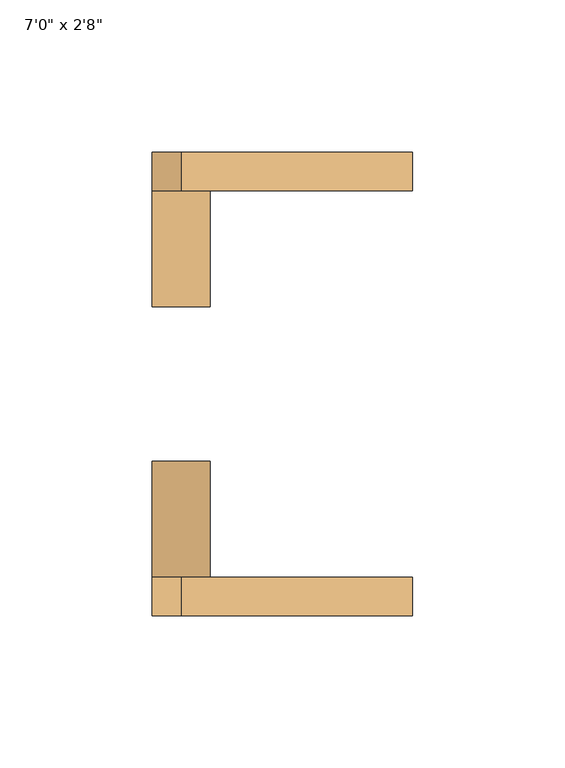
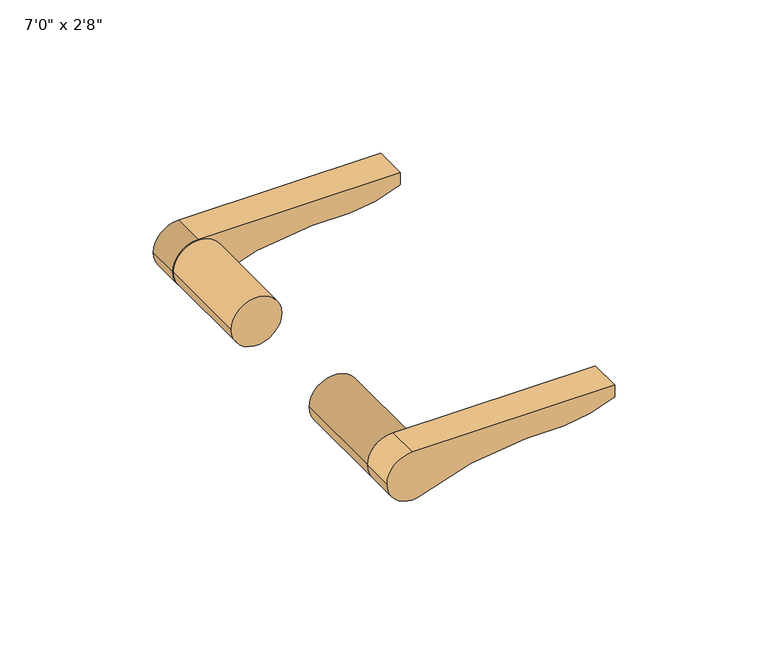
"""IFC4 building model written with IfcOpenShell, lengths in millimetres: door geometry."""

from ifc_helpers import new_model, si_unit, point, frame, frame_2d, origin, place, context, project, spatial, polyline, circle_curve, trimmed, segment, composite_curve, outline, extrude, source, transform, mapped, element, save


def door_9450de81(model_context):
    return source(origin(), model_context, "Body", "SweptSolid", [
        extrude(outline(composite_curve([segment(trimmed(circle_curve(frame_2d((1016.0, -342.9)), 9.525), [point((1016.0, -352.425))], [point((1006.7131627, -340.7833333))], False, "CARTESIAN"), True, "CONTINUOUS"), segment(trimmed(circle_curve(frame_2d((910.8226001, -297.4965958)), 105.2080873), [point((1006.7131627, -340.7833333))], [point((1016.0, -300.0375))], True, "CARTESIAN"), True, "CONTINUOUS"), segment(polyline([(1016.0, -300.0375), (1016.0, -285.8013442)]), True, "CONTINUOUS"), segment(trimmed(circle_curve(frame_2d((1066.7220571, -288.303389)), 50.7837307), [point((1016.0, -285.8013442))], [point((1020.7625, -266.7))], False, "CARTESIAN"), True, "CONTINUOUS"), segment(polyline([(1020.7625, -266.7), (1025.525, -266.7), (1025.525, -342.9)]), True, "CONTINUOUS"), segment(trimmed(circle_curve(frame_2d((1016.0, -342.9)), 9.525), [point((1025.525, -342.9))], [point((1016.0, -352.425))], False, "CARTESIAN"), True, "CONTINUOUS")], self_intersect=False)), frame((0.0, 38.1, 0.0), z_axis=(0.0, 1.0, 0.0), x_axis=(0.0, 0.0, 1.0)), (0.0, 0.0, 1.0), 12.7),
        extrude(outline(composite_curve([segment(trimmed(circle_curve(frame_2d((1016.0, -342.9)), 9.525), [point((1016.0, -352.425))], [point((1006.7131627, -340.7833333))], False, "CARTESIAN"), True, "CONTINUOUS"), segment(trimmed(circle_curve(frame_2d((910.8226001, -297.4965958)), 105.2080873), [point((1006.7131627, -340.7833333))], [point((1016.0, -300.0375))], True, "CARTESIAN"), True, "CONTINUOUS"), segment(polyline([(1016.0, -300.0375), (1016.0, -285.8013442)]), True, "CONTINUOUS"), segment(trimmed(circle_curve(frame_2d((1066.7220571, -288.303389)), 50.7837307), [point((1016.0, -285.8013442))], [point((1020.7625, -266.7))], False, "CARTESIAN"), True, "CONTINUOUS"), segment(polyline([(1020.7625, -266.7), (1025.525, -266.7), (1025.525, -342.9)]), True, "CONTINUOUS"), segment(trimmed(circle_curve(frame_2d((1016.0, -342.9)), 9.525), [point((1025.525, -342.9))], [point((1016.0, -352.425))], False, "CARTESIAN"), True, "CONTINUOUS")], self_intersect=False)), frame((0.0, -101.6, 0.0), z_axis=(0.0, 1.0, 0.0), x_axis=(0.0, 0.0, 1.0)), (0.0, 0.0, 1.0), 12.7),
        extrude(outline(composite_curve([segment(trimmed(circle_curve(frame_2d((1016.0, -342.9)), 9.525), [point((1016.0, -333.375))], [point((1016.0, -352.425))], False, "CARTESIAN"), True, "CONTINUOUS"), segment(trimmed(circle_curve(frame_2d((1016.0, -342.9)), 9.525), [point((1016.0, -352.425))], [point((1016.0, -333.375))], False, "CARTESIAN"), True, "CONTINUOUS")], self_intersect=False)), frame((0.0, -88.9, 0.0), z_axis=(0.0, 1.0, 0.0), x_axis=(0.0, 0.0, 1.0)), (0.0, 0.0, 1.0), 38.1),
        extrude(outline(composite_curve([segment(trimmed(circle_curve(frame_2d((1016.0, -342.9)), 9.525), [point((1016.0, -333.375))], [point((1016.0, -352.425))], False, "CARTESIAN"), True, "CONTINUOUS"), segment(trimmed(circle_curve(frame_2d((1016.0, -342.9)), 9.525), [point((1016.0, -352.425))], [point((1016.0, -333.375))], False, "CARTESIAN"), True, "CONTINUOUS")], self_intersect=False)), frame((0.0, 0.0, 0.0), z_axis=(0.0, 1.0, 0.0), x_axis=(0.0, 0.0, 1.0)), (0.0, 0.0, 1.0), 38.1),
    ])


if __name__ == "__main__":
    model = new_model("IFC4")
    model_context = context("Model", 3, world=origin())
    ifc_project = project(units=[si_unit("LENGTHUNIT", "METRE", prefix="MILLI")], contexts=[model_context])
    site = spatial("IfcSite", under=ifc_project)
    building = spatial("IfcBuilding", under=site)
    placement = place(None, origin())
    door_shape = door_9450de81(model_context)
    element("IfcDoor", 1, ObjectType="Planitar - Single Door_Swapper : 7'0\" x 2'8\"", at=placement, inside=building, context=model_context, shape_type="MappedRepresentation", body=[
        mapped(door_shape, transform((0.0, 0.0, 0.0), x_axis=(1.0, 0.0, 0.0), y_axis=(0.0, 1.0, 0.0), z_axis=(0.0, 0.0, 1.0))),
    ])
    save(model, "model.ifc")
